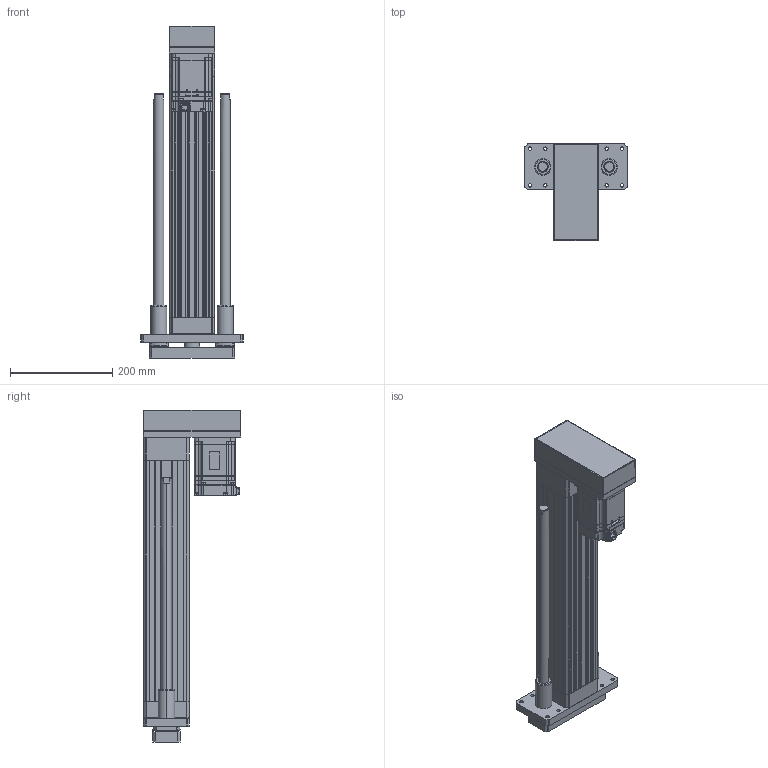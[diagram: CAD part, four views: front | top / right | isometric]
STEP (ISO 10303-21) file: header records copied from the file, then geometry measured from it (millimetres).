
FILE_DESCRIPTION (( 'STEP AP203' ), '1' );
FILE_NAME ('ANS090R-GP350-05(10)(20)-W75.STEP', '2019-03-02T09:00:24', ( 'user' ), ( '' ), 'SwSTEP 2.0', 'SolidWorks 2013', '' );
FILE_SCHEMA (( 'CONFIG_CONTROL_DESIGN' ));
Length unit declared in the file: millimetre
Products named in the file (4): ANS090R GP350 VER2; SGMJV_08A_A21; ANS090 ROD ST350-G; ANS090R-GP350-05(10)(20)-W75
Assembly tree (3 placements, depth 2):
  ANS090R-GP350-05(10)(20)-W75
    ANS090R GP350 VER2
    SGMJV_08A_A21
    ANS090 ROD ST350-G
Bounding box: 200 x 190 x 650 mm (x, y, z)
Volume: 4063544.9 mm3; surface area: 785904.2 mm2
Topology: 3 solids, 7 shells, 1393 faces, 3620 edges, 2322 vertices
Faces by surface type: plane 779, cylinder 454, cone 144, sphere 8, torus 4, bspline 4
Entity records: 43156 total; most frequent: CARTESIAN_POINT 7975, DIRECTION 7322, ORIENTED_EDGE 7200, EDGE_CURVE 3600, AXIS2_PLACEMENT_3D 2441, LINE 2440, VECTOR 2440, VERTEX_POINT 2322
